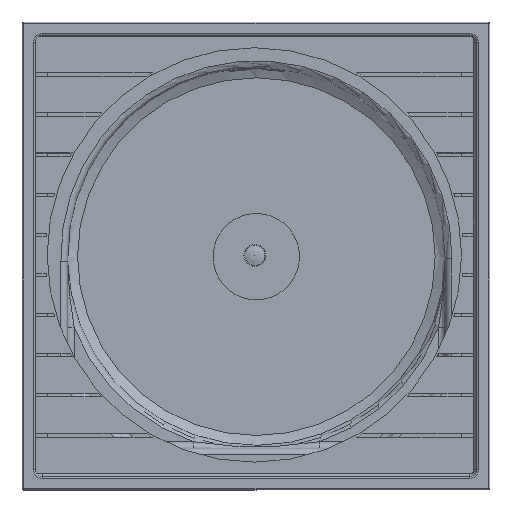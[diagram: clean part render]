
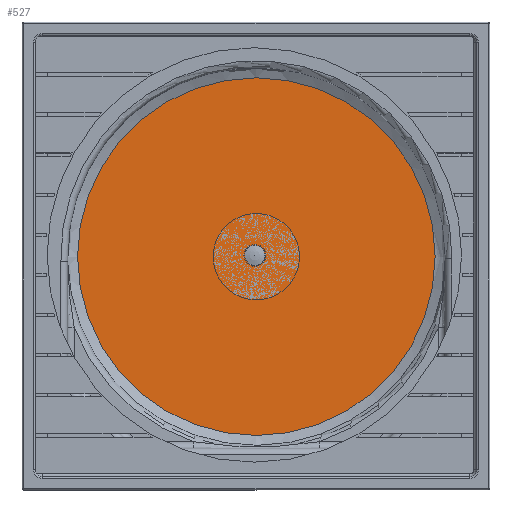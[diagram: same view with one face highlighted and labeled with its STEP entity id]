
A CAD part, top view. The second image highlights one B-rep face of the part: STEP entity #527.
In plain terms, the highlighted planar face has unit normal (0, 0, 1).
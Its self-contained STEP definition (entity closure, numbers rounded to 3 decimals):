
#500=CARTESIAN_POINT('',(671.688,-683.673,-550.0));
#501=DIRECTION('',(0.0,0.0,-1.0));
#502=DIRECTION('',(-1.0,0.0,0.0));
#503=AXIS2_PLACEMENT_3D('',#500,#501,#502);
#504=PLANE('',#503);
#505=CARTESIAN_POINT('',(1236.688,-683.673,-550.0));
#506=VERTEX_POINT('',#505);
#507=CARTESIAN_POINT('',(671.688,-683.673,-550.0));
#508=DIRECTION('',(0.0,0.0,1.0));
#509=DIRECTION('',(-1.0,0.0,0.0));
#510=AXIS2_PLACEMENT_3D('',#507,#508,#509);
#511=CIRCLE('',#510,565.0);
#512=EDGE_CURVE('',#506,#506,#511,.T.);
#513=ORIENTED_EDGE('',*,*,#512,.T.);
#514=EDGE_LOOP('',(#513));
#515=FACE_OUTER_BOUND('',#514,.T.);
#516=CARTESIAN_POINT('',(697.638,-683.674,-550.0));
#517=VERTEX_POINT('',#516);
#518=CARTESIAN_POINT('',(671.638,-683.674,-550.0));
#519=DIRECTION('',(0.0,0.0,-1.0));
#520=DIRECTION('',(-1.0,0.0,0.0));
#521=AXIS2_PLACEMENT_3D('',#518,#519,#520);
#522=CIRCLE('',#521,26.);
#523=EDGE_CURVE('',#517,#517,#522,.T.);
#524=ORIENTED_EDGE('',*,*,#523,.T.);
#525=EDGE_LOOP('',(#524));
#526=FACE_BOUND('',#525,.T.);
#527=ADVANCED_FACE('',(#515,#526),#504,.F.);
